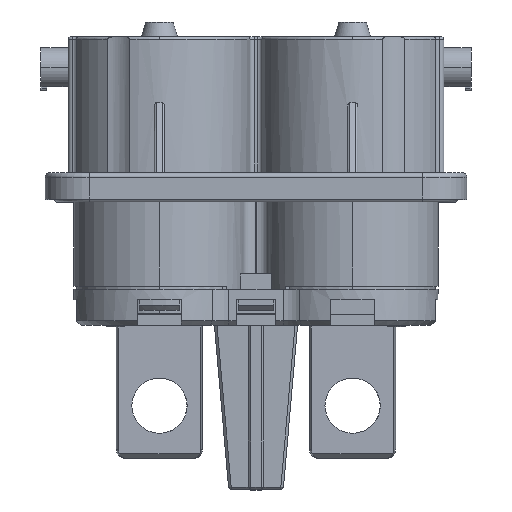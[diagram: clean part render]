
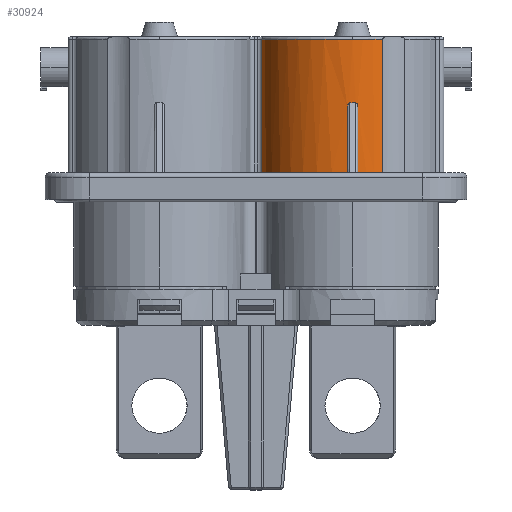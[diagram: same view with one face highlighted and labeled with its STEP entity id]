
A CAD part, top view. The second image highlights one B-rep face of the part: STEP entity #30924.
In plain terms, the highlighted cylindrical face has radius 10.4 mm (diameter 20.8 mm), a partial arc.
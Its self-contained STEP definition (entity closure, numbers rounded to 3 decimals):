
#298 = AXIS2_PLACEMENT_3D ( 'NONE', #3947, #23253, #6723 ) ;
#539 = CARTESIAN_POINT ( 'NONE',  ( 21.4, 9.03, 10.383 ) ) ;
#875 = DIRECTION ( 'NONE',  ( 0., -1., 0. ) ) ;
#1025 = ORIENTED_EDGE ( 'NONE', *, *, #31967, .T. ) ;
#1201 = CARTESIAN_POINT ( 'NONE',  ( 25.42, 1.483, 9.822 ) ) ;
#1531 = VERTEX_POINT ( 'NONE', #30339 ) ;
#1560 = DIRECTION ( 'NONE',  ( 0., 0., 1. ) ) ;
#1665 = CARTESIAN_POINT ( 'NONE',  ( 22.6, 8.911, 10.383 ) ) ;
#2015 = CARTESIAN_POINT ( 'NONE',  ( 25.42, 16.683, 9.822 ) ) ;
#2300 = DIRECTION ( 'NONE',  ( 0., -1., 0. ) ) ;
#2395 = CARTESIAN_POINT ( 'NONE',  ( 21.9, 9.481, 10.401 ) ) ;
#3091 = CARTESIAN_POINT ( 'NONE',  ( 21.4, -1.517, 10.383 ) ) ;
#3470 = EDGE_CURVE ( 'NONE', #34728, #32283, #31905, .T. ) ;
#3667 = VECTOR ( 'NONE', #5983, 1000. ) ;
#3947 = CARTESIAN_POINT ( 'NONE',  ( 22., 1.483, 0. ) ) ;
#4868 = AXIS2_PLACEMENT_3D ( 'NONE', #27055, #2300, #16183 ) ;
#4962 = ORIENTED_EDGE ( 'NONE', *, *, #31548, .F. ) ;
#4963 = EDGE_CURVE ( 'NONE', #24398, #7969, #7302, .T. ) ;
#5834 = LINE ( 'NONE', #21543, #26997 ) ;
#5937 = CIRCLE ( 'NONE', #298, 10.4 ) ;
#5983 = DIRECTION ( 'NONE',  ( 0., 1., 0. ) ) ;
#6111 = AXIS2_PLACEMENT_3D ( 'NONE', #34688, #18088, #1560 ) ;
#6198 = CARTESIAN_POINT ( 'NONE',  ( 11.699, -1.517, 1.431 ) ) ;
#6641 = ORIENTED_EDGE ( 'NONE', *, *, #15031, .F. ) ;
#6723 = DIRECTION ( 'NONE',  ( 0., 0., 1. ) ) ;
#6899 = VERTEX_POINT ( 'NONE', #8412 ) ;
#6944 = CARTESIAN_POINT ( 'NONE',  ( 22.416, 9.459, 10.392 ) ) ;
#7302 = CIRCLE ( 'NONE', #33499, 10.4 ) ;
#7351 = ORIENTED_EDGE ( 'NONE', *, *, #29468, .T. ) ;
#7952 = ORIENTED_EDGE ( 'NONE', *, *, #10746, .T. ) ;
#7969 = VERTEX_POINT ( 'NONE', #14429 ) ;
#8014 = VERTEX_POINT ( 'NONE', #11734 ) ;
#8240 = DIRECTION ( 'NONE',  ( 0., -1., 0. ) ) ;
#8412 = CARTESIAN_POINT ( 'NONE',  ( 11.699, 16.683, 1.431 ) ) ;
#8753 = EDGE_CURVE ( 'NONE', #30006, #8014, #26307, .T. ) ;
#8826 = CARTESIAN_POINT ( 'NONE',  ( 21.478, 9.316, 10.387 ) ) ;
#9669 = CARTESIAN_POINT ( 'NONE',  ( 22.522, 9.315, 10.387 ) ) ;
#10563 = ORIENTED_EDGE ( 'NONE', *, *, #22011, .T. ) ;
#10746 = EDGE_CURVE ( 'NONE', #6899, #32283, #11689, .T. ) ;
#10805 = CARTESIAN_POINT ( 'NONE',  ( 22.3, 9.491, 10.396 ) ) ;
#11604 = CARTESIAN_POINT ( 'NONE',  ( 21.585, 9.459, 10.392 ) ) ;
#11689 = LINE ( 'NONE', #6198, #25550 ) ;
#11734 = CARTESIAN_POINT ( 'NONE',  ( 22.3, 9.491, 10.396 ) ) ;
#12088 = FACE_OUTER_BOUND ( 'NONE', #34706, .T. ) ;
#12130 = CARTESIAN_POINT ( 'NONE',  ( 22., 16.683, 0. ) ) ;
#12466 = CARTESIAN_POINT ( 'NONE',  ( 22.6, 9.03, 10.383 ) ) ;
#12601 = ORIENTED_EDGE ( 'NONE', *, *, #8753, .T. ) ;
#13168 = DIRECTION ( 'NONE',  ( 0., 1., 0. ) ) ;
#13208 = LINE ( 'NONE', #14001, #34429 ) ;
#14001 = CARTESIAN_POINT ( 'NONE',  ( 25.42, 8.983, 9.822 ) ) ;
#14004 = ORIENTED_EDGE ( 'NONE', *, *, #4963, .T. ) ;
#14330 = CARTESIAN_POINT ( 'NONE',  ( 21.4, 1.483, 10.383 ) ) ;
#14375 = B_SPLINE_CURVE_WITH_KNOTS ( 'NONE', 3,
 ( #15165, #17901, #6944, #26258, #9669, #29056, #12466, #31865 ),
 .UNSPECIFIED., .F., .F.,
 ( 4, 2, 2, 4 ),
 ( 0., 0., 0., 0.001 ),
 .UNSPECIFIED. ) ;
#14416 = CARTESIAN_POINT ( 'NONE',  ( 21.7, 9.491, 10.396 ) ) ;
#14429 = CARTESIAN_POINT ( 'NONE',  ( 22., 16.683, 10.4 ) ) ;
#14954 = DIRECTION ( 'NONE',  ( 0., 0., 1. ) ) ;
#15031 = EDGE_CURVE ( 'NONE', #21434, #1531, #5937, .T. ) ;
#15165 = CARTESIAN_POINT ( 'NONE',  ( 22.3, 9.491, 10.396 ) ) ;
#16183 = DIRECTION ( 'NONE',  ( 0., 0., -1. ) ) ;
#16789 = CARTESIAN_POINT ( 'NONE',  ( 11.699, 1.483, 1.431 ) ) ;
#17048 = CARTESIAN_POINT ( 'NONE',  ( 21.4, 8.911, 10.383 ) ) ;
#17901 = CARTESIAN_POINT ( 'NONE',  ( 22.36, 9.494, 10.394 ) ) ;
#18088 = DIRECTION ( 'NONE',  ( 0., -1., 0. ) ) ;
#19106 = CARTESIAN_POINT ( 'NONE',  ( 21.4, 8.911, 10.383 ) ) ;
#19665 = CIRCLE ( 'NONE', #6111, 10.4 ) ;
#20285 = EDGE_CURVE ( 'NONE', #34728, #31666, #32217, .T. ) ;
#21434 = VERTEX_POINT ( 'NONE', #1201 ) ;
#21543 = CARTESIAN_POINT ( 'NONE',  ( 22.6, -1.517, 10.383 ) ) ;
#21840 = CARTESIAN_POINT ( 'NONE',  ( 21.7, 9.491, 10.396 ) ) ;
#22011 = EDGE_CURVE ( 'NONE', #8014, #27453, #14375, .T. ) ;
#22324 = CARTESIAN_POINT ( 'NONE',  ( 21.7, 9.491, 10.396 ) ) ;
#23253 = DIRECTION ( 'NONE',  ( 0., -1., 0. ) ) ;
#23977 = B_SPLINE_CURVE_WITH_KNOTS ( 'NONE', 3,
 ( #17048, #539, #25409, #8826, #28189, #11604, #30969, #14416 ),
 .UNSPECIFIED., .F., .F.,
 ( 4, 2, 2, 4 ),
 ( 0., 0., 0.001, 0.001 ),
 .UNSPECIFIED. ) ;
#24398 = VERTEX_POINT ( 'NONE', #2015 ) ;
#24781 = CARTESIAN_POINT ( 'NONE',  ( 22., 1.483, 0. ) ) ;
#25409 = CARTESIAN_POINT ( 'NONE',  ( 21.416, 9.149, 10.384 ) ) ;
#25550 = VECTOR ( 'NONE', #875, 1000. ) ;
#26258 = CARTESIAN_POINT ( 'NONE',  ( 22.494, 9.369, 10.388 ) ) ;
#26307 =( BOUNDED_CURVE ( )  B_SPLINE_CURVE ( 3, ( #21840, #2395, #27384, #10805 ),
 .UNSPECIFIED., .F., .F. ) 
 B_SPLINE_CURVE_WITH_KNOTS ( ( 4, 4 ),
 ( 6.254, 6.312 ),
 .UNSPECIFIED. ) 
 CURVE ( )  GEOMETRIC_REPRESENTATION_ITEM ( )  RATIONAL_B_SPLINE_CURVE ( ( 1., 1., 1., 1. ) ) 
 REPRESENTATION_ITEM ( '' )  );
#26997 = VECTOR ( 'NONE', #13168, 1000. ) ;
#27055 = CARTESIAN_POINT ( 'NONE',  ( 22., -1.517, 0. ) ) ;
#27384 = CARTESIAN_POINT ( 'NONE',  ( 22.1, 9.481, 10.401 ) ) ;
#27451 = ORIENTED_EDGE ( 'NONE', *, *, #35439, .T. ) ;
#27453 = VERTEX_POINT ( 'NONE', #1665 ) ;
#27579 = DIRECTION ( 'NONE',  ( 0., 0., 1. ) ) ;
#28189 = CARTESIAN_POINT ( 'NONE',  ( 21.506, 9.369, 10.388 ) ) ;
#29056 = CARTESIAN_POINT ( 'NONE',  ( 22.584, 9.148, 10.384 ) ) ;
#29468 = EDGE_CURVE ( 'NONE', #21434, #24398, #13208, .T. ) ;
#29767 = ORIENTED_EDGE ( 'NONE', *, *, #20285, .T. ) ;
#30004 = ORIENTED_EDGE ( 'NONE', *, *, #3470, .F. ) ;
#30006 = VERTEX_POINT ( 'NONE', #22324 ) ;
#30339 = CARTESIAN_POINT ( 'NONE',  ( 22.6, 1.483, 10.383 ) ) ;
#30713 = CYLINDRICAL_SURFACE ( 'NONE', #4868, 10.4 ) ;
#30924 = ADVANCED_FACE ( 'NONE', ( #12088 ), #30713, .T. ) ;
#30969 = CARTESIAN_POINT ( 'NONE',  ( 21.64, 9.494, 10.394 ) ) ;
#31524 = DIRECTION ( 'NONE',  ( 0., -1., 0. ) ) ;
#31548 = EDGE_CURVE ( 'NONE', #1531, #27453, #5834, .T. ) ;
#31666 = VERTEX_POINT ( 'NONE', #19106 ) ;
#31865 = CARTESIAN_POINT ( 'NONE',  ( 22.6, 8.911, 10.383 ) ) ;
#31905 = CIRCLE ( 'NONE', #34819, 10.4 ) ;
#31967 = EDGE_CURVE ( 'NONE', #7969, #6899, #19665, .T. ) ;
#32217 = LINE ( 'NONE', #3091, #3667 ) ;
#32283 = VERTEX_POINT ( 'NONE', #16789 ) ;
#33350 = DIRECTION ( 'NONE',  ( 0., 1., 0. ) ) ;
#33499 = AXIS2_PLACEMENT_3D ( 'NONE', #12130, #31524, #14954 ) ;
#34429 = VECTOR ( 'NONE', #33350, 1000. ) ;
#34688 = CARTESIAN_POINT ( 'NONE',  ( 22., 16.683, 0. ) ) ;
#34706 = EDGE_LOOP ( 'NONE', ( #7351, #14004, #1025, #7952, #30004, #29767, #27451, #12601, #10563, #4962, #6641 ) ) ;
#34728 = VERTEX_POINT ( 'NONE', #14330 ) ;
#34819 = AXIS2_PLACEMENT_3D ( 'NONE', #24781, #8240, #27579 ) ;
#35439 = EDGE_CURVE ( 'NONE', #31666, #30006, #23977, .T. ) ;
